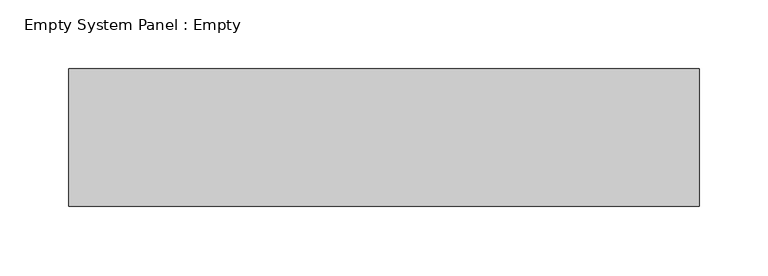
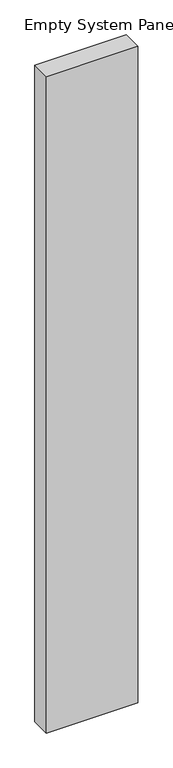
"""IFC4 building model written with IfcOpenShell, lengths in millimetres: plate geometry, Empty System Panel : Empty."""

from ifc_helpers import new_model, si_unit, origin, origin_with_axes, place, context, project, spatial, polyline, outline, extrude, source, transform, mapped, element, save


def empty_system_panel_empty_7d408543(model_context):
    return source(origin(), model_context, "Body", "SweptSolid", [
        extrude(outline(polyline([(229.6046705, -50.0), (-229.6046705, -50.0), (-229.6046705, 50.0), (229.6046705, 50.0), (229.6046705, -50.0)])), origin_with_axes(), (0.0, 0.0, 1.0), 3488.7644131),
    ])


if __name__ == "__main__":
    model = new_model("IFC4")
    model_context = context("Model", 3, world=origin())
    ifc_project = project(units=[si_unit("LENGTHUNIT", "METRE", prefix="MILLI")], contexts=[model_context])
    site = spatial("IfcSite", under=ifc_project)
    building = spatial("IfcBuilding", under=site)
    placement = place(None, origin())
    empty_system_panel_empty_shape = empty_system_panel_empty_7d408543(model_context)
    element("IfcPlate", 1, ObjectType="Empty System Panel : Empty", at=placement, inside=building, context=model_context, shape_type="MappedRepresentation", body=[
        mapped(empty_system_panel_empty_shape, transform((0.0, 0.0, 0.0), x_axis=(1.0, 0.0, 0.0), y_axis=(0.0, 1.0, 0.0), z_axis=(0.0, 0.0, 1.0))),
    ])
    save(model, "model.ifc")
